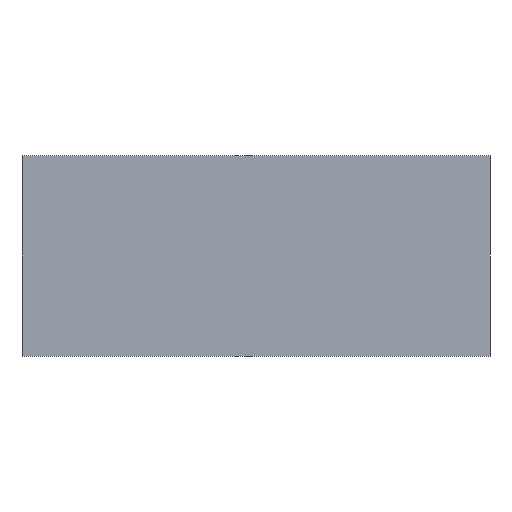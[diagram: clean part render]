
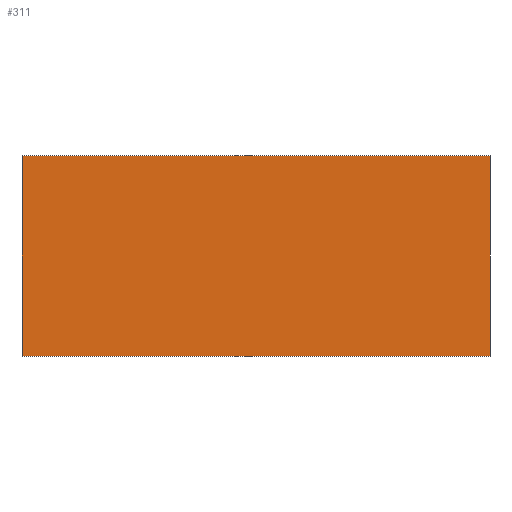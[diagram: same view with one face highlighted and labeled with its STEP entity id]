
A CAD part, front view. The second image highlights one B-rep face of the part: STEP entity #311.
In plain terms, the highlighted planar face has unit normal (0, -1, 0).
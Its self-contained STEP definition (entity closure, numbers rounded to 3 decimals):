
#22 = VERTEX_POINT('',#23);
#23 = CARTESIAN_POINT('',(0.,0.,3.));
#32 = PLANE('',#33);
#33 = AXIS2_PLACEMENT_3D('',#34,#35,#36);
#34 = CARTESIAN_POINT('',(0.,-2.5,0.));
#35 = DIRECTION('',(1.,0.,-0.));
#36 = DIRECTION('',(0.,0.,1.));
#44 = PLANE('',#45);
#45 = AXIS2_PLACEMENT_3D('',#46,#47,#48);
#46 = CARTESIAN_POINT('',(0.,-2.5,3.));
#47 = DIRECTION('',(0.,0.,1.));
#48 = DIRECTION('',(1.,0.,-0.));
#56 = EDGE_CURVE('',#57,#22,#59,.T.);
#57 = VERTEX_POINT('',#58);
#58 = CARTESIAN_POINT('',(0.,0.,0.));
#59 = SURFACE_CURVE('',#60,(#64,#71),.PCURVE_S1.);
#60 = LINE('',#61,#62);
#61 = CARTESIAN_POINT('',(0.,0.,-82.2));
#62 = VECTOR('',#63,1.);
#63 = DIRECTION('',(0.,0.,1.));
#64 = PCURVE('',#32,#65);
#65 = DEFINITIONAL_REPRESENTATION('',(#66),#70);
#66 = LINE('',#67,#68);
#67 = CARTESIAN_POINT('',(-82.2,-2.5));
#68 = VECTOR('',#69,1.);
#69 = DIRECTION('',(1.,0.));
#70 = ( GEOMETRIC_REPRESENTATION_CONTEXT(2) 
PARAMETRIC_REPRESENTATION_CONTEXT() REPRESENTATION_CONTEXT('2D SPACE',''
  ) );
#71 = PCURVE('',#72,#77);
#72 = PLANE('',#73);
#73 = AXIS2_PLACEMENT_3D('',#74,#75,#76);
#74 = CARTESIAN_POINT('',(-307.1,0.,-164.4));
#75 = DIRECTION('',(-0.,1.,0.));
#76 = DIRECTION('',(0.,0.,1.));
#77 = DEFINITIONAL_REPRESENTATION('',(#78),#82);
#78 = LINE('',#79,#80);
#79 = CARTESIAN_POINT('',(82.2,307.1));
#80 = VECTOR('',#81,1.);
#81 = DIRECTION('',(1.,0.));
#82 = ( GEOMETRIC_REPRESENTATION_CONTEXT(2) 
PARAMETRIC_REPRESENTATION_CONTEXT() REPRESENTATION_CONTEXT('2D SPACE',''
  ) );
#100 = PLANE('',#101);
#101 = AXIS2_PLACEMENT_3D('',#102,#103,#104);
#102 = CARTESIAN_POINT('',(0.,-2.5,0.));
#103 = DIRECTION('',(0.,0.,1.));
#104 = DIRECTION('',(1.,0.,-0.));
#142 = EDGE_CURVE('',#143,#22,#145,.T.);
#143 = VERTEX_POINT('',#144);
#144 = CARTESIAN_POINT('',(7.,0.,3.));
#145 = SURFACE_CURVE('',#146,(#150,#157),.PCURVE_S1.);
#146 = LINE('',#147,#148);
#147 = CARTESIAN_POINT('',(-153.55,0.,3.));
#148 = VECTOR('',#149,1.);
#149 = DIRECTION('',(-1.,-0.,0.));
#150 = PCURVE('',#44,#151);
#151 = DEFINITIONAL_REPRESENTATION('',(#152),#156);
#152 = LINE('',#153,#154);
#153 = CARTESIAN_POINT('',(-153.55,2.5));
#154 = VECTOR('',#155,1.);
#155 = DIRECTION('',(-1.,0.));
#156 = ( GEOMETRIC_REPRESENTATION_CONTEXT(2) 
PARAMETRIC_REPRESENTATION_CONTEXT() REPRESENTATION_CONTEXT('2D SPACE',''
  ) );
#157 = PCURVE('',#72,#158);
#158 = DEFINITIONAL_REPRESENTATION('',(#159),#163);
#159 = LINE('',#160,#161);
#160 = CARTESIAN_POINT('',(167.4,153.55));
#161 = VECTOR('',#162,1.);
#162 = DIRECTION('',(0.,-1.));
#163 = ( GEOMETRIC_REPRESENTATION_CONTEXT(2) 
PARAMETRIC_REPRESENTATION_CONTEXT() REPRESENTATION_CONTEXT('2D SPACE',''
  ) );
#181 = PLANE('',#182);
#182 = AXIS2_PLACEMENT_3D('',#183,#184,#185);
#183 = CARTESIAN_POINT('',(7.,-2.5,0.));
#184 = DIRECTION('',(1.,0.,-0.));
#185 = DIRECTION('',(0.,0.,1.));
#267 = EDGE_CURVE('',#268,#57,#270,.T.);
#268 = VERTEX_POINT('',#269);
#269 = CARTESIAN_POINT('',(7.,0.,0.));
#270 = SURFACE_CURVE('',#271,(#275,#282),.PCURVE_S1.);
#271 = LINE('',#272,#273);
#272 = CARTESIAN_POINT('',(-153.55,0.,0.));
#273 = VECTOR('',#274,1.);
#274 = DIRECTION('',(-1.,-0.,0.));
#275 = PCURVE('',#100,#276);
#276 = DEFINITIONAL_REPRESENTATION('',(#277),#281);
#277 = LINE('',#278,#279);
#278 = CARTESIAN_POINT('',(-153.55,2.5));
#279 = VECTOR('',#280,1.);
#280 = DIRECTION('',(-1.,0.));
#281 = ( GEOMETRIC_REPRESENTATION_CONTEXT(2) 
PARAMETRIC_REPRESENTATION_CONTEXT() REPRESENTATION_CONTEXT('2D SPACE',''
  ) );
#282 = PCURVE('',#72,#283);
#283 = DEFINITIONAL_REPRESENTATION('',(#284),#288);
#284 = LINE('',#285,#286);
#285 = CARTESIAN_POINT('',(164.4,153.55));
#286 = VECTOR('',#287,1.);
#287 = DIRECTION('',(0.,-1.));
#288 = ( GEOMETRIC_REPRESENTATION_CONTEXT(2) 
PARAMETRIC_REPRESENTATION_CONTEXT() REPRESENTATION_CONTEXT('2D SPACE',''
  ) );
#311 = ADVANCED_FACE('',(#312),#72,.F.);
#312 = FACE_BOUND('',#313,.F.);
#313 = EDGE_LOOP('',(#314,#315,#316,#317));
#314 = ORIENTED_EDGE('',*,*,#267,.T.);
#315 = ORIENTED_EDGE('',*,*,#56,.T.);
#316 = ORIENTED_EDGE('',*,*,#142,.F.);
#317 = ORIENTED_EDGE('',*,*,#318,.F.);
#318 = EDGE_CURVE('',#268,#143,#319,.T.);
#319 = SURFACE_CURVE('',#320,(#324,#331),.PCURVE_S1.);
#320 = LINE('',#321,#322);
#321 = CARTESIAN_POINT('',(7.,0.,-82.2));
#322 = VECTOR('',#323,1.);
#323 = DIRECTION('',(0.,0.,1.));
#324 = PCURVE('',#72,#325);
#325 = DEFINITIONAL_REPRESENTATION('',(#326),#330);
#326 = LINE('',#327,#328);
#327 = CARTESIAN_POINT('',(82.2,314.1));
#328 = VECTOR('',#329,1.);
#329 = DIRECTION('',(1.,0.));
#330 = ( GEOMETRIC_REPRESENTATION_CONTEXT(2) 
PARAMETRIC_REPRESENTATION_CONTEXT() REPRESENTATION_CONTEXT('2D SPACE',''
  ) );
#331 = PCURVE('',#181,#332);
#332 = DEFINITIONAL_REPRESENTATION('',(#333),#337);
#333 = LINE('',#334,#335);
#334 = CARTESIAN_POINT('',(-82.2,-2.5));
#335 = VECTOR('',#336,1.);
#336 = DIRECTION('',(1.,0.));
#337 = ( GEOMETRIC_REPRESENTATION_CONTEXT(2) 
PARAMETRIC_REPRESENTATION_CONTEXT() REPRESENTATION_CONTEXT('2D SPACE',''
  ) );
